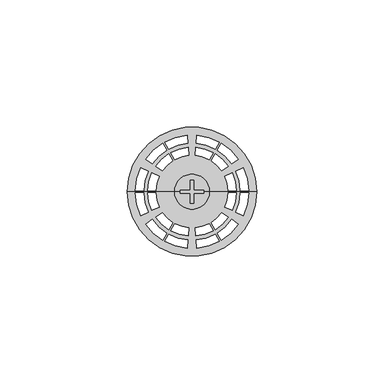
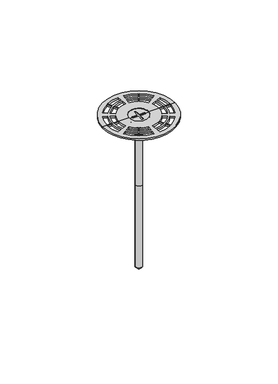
"""IFC4 building model written with IfcOpenShell, lengths in millimetres: proxy geometry, Durabond Generic Model Screw w Standard Wall Plate : Durabond Generic Model Screw w Standard Wall Plate."""

from ifc_helpers import new_model, si_unit, point, frame, origin, place, context, project, spatial, polyline, circle_curve, ellipse_curve, trimmed, source, transform, mapped, element, save
from ifc_brep_helpers import plane_surface, cylinder_surface, revolved_surface, advanced_brep


def generic_models_3031e4fa(model_context):
    return source(origin(), model_context, "Body", "AdvancedBrep", [
        advanced_brep(
        [(6.8713781, 0.0, 0.79375), (4.7625, 0.0, 0.79375), (4.7625, -0.79375, 0.79375), (0.79375, -0.79375, 0.79375), (0.79375, -4.7625, 0.79375), (-0.79375, -4.7625, 0.79375), (-0.79375, -0.79375, 0.79375), (-4.7625, -0.79375, 0.79375), (-4.7625, 0.0, 0.79375), (-6.8713781, 0.0, 0.79375), (-4.7625, 0.79375, 0.79375), (-0.79375, 0.79375, 0.79375), (-0.79375, 4.7625, 0.79375), (0.79375, 4.7625, 0.79375), (0.79375, 0.79375, 0.79375), (4.7625, 0.79375, 0.79375), (-6.8713781, 0.0, -1.0661219), (6.8713781, 0.0, -1.0661219), (-2.38125, 0.0, -5.55625), (2.38125, 0.0, -5.55625), (-2.38125, 0.0, -50.00625), (2.38125, 0.0, -50.00625), (-0.79375, 4.7625, 0.0), (-0.79375, 0.79375, 0.0), (-4.7625, 0.79375, 0.0), (-4.7625, -0.79375, 0.0), (-0.79375, -0.79375, 0.0), (-0.79375, -4.7625, 0.0), (0.79375, -4.7625, 0.0), (0.79375, -0.79375, 0.0), (4.7625, -0.79375, 0.0), (4.7625, 0.79375, 0.0), (0.79375, 0.79375, 0.0), (0.79375, 4.7625, 0.0), (0.0, 0.0, -50.00625)],
        [
            (0, 1),
            (1, 2),
            (2, 3),
            (3, 4),
            (4, 5),
            (5, 6),
            (6, 7),
            (7, 8),
            (8, 9),
            (9, 0, circle_curve(frame((0.0, 0.0, 0.79375), z_axis=(0.0, 0.0, 1.0), x_axis=(-1.0, 0.0, 0.0)), 6.8713781)),
            (8, 10),
            (10, 11),
            (11, 12),
            (12, 13),
            (13, 14),
            (14, 15),
            (15, 1),
            (0, 9, circle_curve(frame((0.0, 0.0, 0.79375), z_axis=(0.0, 0.0, 1.0), x_axis=(-1.0, 0.0, 0.0)), 6.8713781)),
            (9, 16),
            (16, 17, circle_curve(frame((0.0, 0.0, -1.0661219), z_axis=(0.0, 0.0, 1.0), x_axis=(-1.0, 0.0, 0.0)), 6.8713781)),
            (17, 0),
            (17, 16, circle_curve(frame((0.0, 0.0, -1.0661219), z_axis=(0.0, 0.0, 1.0), x_axis=(-1.0, 0.0, 0.0)), 6.8713781)),
            (16, 18),
            (18, 19, circle_curve(frame((0.0, 0.0, -5.55625), z_axis=(0.0, 0.0, 1.0), x_axis=(-1.0, 0.0, 0.0)), 2.38125)),
            (19, 17),
            (19, 18, circle_curve(frame((0.0, 0.0, -5.55625), z_axis=(0.0, 0.0, 1.0), x_axis=(-1.0, 0.0, 0.0)), 2.38125)),
            (18, 20),
            (20, 21, circle_curve(frame((0.0, 0.0, -50.00625), z_axis=(0.0, 0.0, 1.0), x_axis=(-1.0, 0.0, 0.0)), 2.38125)),
            (21, 19),
            (21, 20, circle_curve(frame((0.0, 0.0, -50.00625), z_axis=(0.0, 0.0, 1.0), x_axis=(-1.0, 0.0, 0.0)), 2.38125)),
            (22, 23),
            (23, 24),
            (24, 25),
            (25, 26),
            (26, 27),
            (27, 28),
            (28, 29),
            (29, 30),
            (30, 31),
            (31, 32),
            (32, 33),
            (33, 22),
            (33, 13),
            (12, 22),
            (32, 14),
            (31, 15),
            (30, 2),
            (29, 3),
            (28, 4),
            (27, 5),
            (26, 6),
            (25, 7),
            (24, 10),
            (23, 11),
            (20, 34),
            (34, 21),
        ],
        [
            plane_surface(frame((0.0, 0.0, 0.79375), z_axis=(0.0, 0.0, 1.0), x_axis=(-1.0, 0.0, 0.0))),
            cylinder_surface(frame((0.0, 0.0, 64.29375), z_axis=(0.0, 0.0, -1.0), x_axis=(-1.0, 0.0, 0.0)), 6.8713781),
            revolved_surface(polyline([(-6.8713781, 0.0, -1.0661219), (-2.38125, 0.0, -5.55625)]), (0.0, 0.0, 64.29375), (0.0, 0.0, -1.0)),
            cylinder_surface(frame((0.0, 0.0, 64.29375), z_axis=(0.0, 0.0, -1.0), x_axis=(-1.0, 0.0, 0.0)), 2.38125),
            plane_surface(frame((6.8713781, 4.7625, 0.0), z_axis=(0.0, 0.0, 1.0), x_axis=(-1.0, 0.0, 0.0))),
            plane_surface(frame((-0.79375, 4.7625, 0.79375), z_axis=(0.0, -1.0, 0.0), x_axis=(0.0, 0.0, -1.0))),
            plane_surface(frame((0.79375, 4.7625, 0.79375), z_axis=(-1.0, 0.0, 0.0), x_axis=(0.0, 0.0, -1.0))),
            plane_surface(frame((0.79375, 0.79375, 0.79375), z_axis=(0.0, -1.0, 0.0), x_axis=(0.0, 0.0, -1.0))),
            plane_surface(frame((4.7625, 0.79375, 0.79375), z_axis=(-1.0, 0.0, 0.0), x_axis=(0.0, 0.0, -1.0))),
            plane_surface(frame((4.7625, -0.79375, 0.79375), z_axis=(0.0, 1.0, 0.0), x_axis=(0.0, 0.0, -1.0))),
            plane_surface(frame((0.79375, -0.79375, 0.79375), z_axis=(-1.0, 0.0, 0.0), x_axis=(0.0, 0.0, -1.0))),
            plane_surface(frame((0.79375, -4.7625, 0.79375), z_axis=(0.0, 1.0, 0.0), x_axis=(0.0, 0.0, -1.0))),
            plane_surface(frame((-0.79375, -4.7625, 0.79375), z_axis=(1.0, 0.0, 0.0), x_axis=(0.0, 0.0, -1.0))),
            plane_surface(frame((-0.79375, -0.79375, 0.79375), z_axis=(0.0, 1.0, 0.0), x_axis=(0.0, 0.0, -1.0))),
            plane_surface(frame((-4.7625, -0.79375, 0.79375), z_axis=(1.0, 0.0, 0.0), x_axis=(0.0, 0.0, -1.0))),
            plane_surface(frame((-4.7625, 0.79375, 0.79375), z_axis=(0.0, -1.0, 0.0), x_axis=(0.0, 0.0, -1.0))),
            plane_surface(frame((-0.79375, 0.79375, 0.79375), z_axis=(1.0, 0.0, 0.0), x_axis=(0.0, 0.0, -1.0))),
            plane_surface(frame((0.0, 0.0, -50.00625), z_axis=(0.0, 0.0, -1.0), x_axis=(-1.0, 0.0, 0.0))),
        ],
        [
            (0, [[1, 2, 3, 4, 5, 6, 7, 8, 9, 10]]),
            (0, [[-9, 11, 12, 13, 14, 15, 16, 17, -1, 18]]),
            (1, [[19, 20, 21, -10]]),
            (1, [[-21, 22, -19, -18]]),
            (2, [[23, 24, 25, -20]]),
            (2, [[-25, 26, -23, -22]]),
            (3, [[27, 28, 29, -24]]),
            (3, [[-29, 30, -27, -26]]),
            (4, [[31, 32, 33, 34, 35, 36, 37, 38, 39, 40, 41, 42]]),
            (5, [[43, -14, 44, -42]]),
            (6, [[45, -15, -43, -41]]),
            (7, [[46, -16, -45, -40]]),
            (8, [[47, -2, -17, -46, -39]]),
            (9, [[48, -3, -47, -38]]),
            (10, [[49, -4, -48, -37]]),
            (11, [[50, -5, -49, -36]]),
            (12, [[51, -6, -50, -35]]),
            (13, [[52, -7, -51, -34]]),
            (14, [[53, -11, -8, -52, -33]]),
            (15, [[54, -12, -53, -32]]),
            (16, [[-44, -13, -54, -31]]),
            (17, [[55, 56, -28]]),
            (17, [[-56, -55, -30]]),
        ],
    ),
        advanced_brep(
        [(0.0, 0.0, -113.50625), (2.38125, 0.0, -111.125), (-2.38125, 0.0, -111.125), (2.38125, 0.0, -50.00625), (-2.38125, 0.0, -50.00625), (0.0, 0.0, -50.00625)],
        [
            (0, 1),
            (1, 2, circle_curve(frame((0.0, 0.0, -111.125), z_axis=(0.0, 0.0, -1.0), x_axis=(-1.0, 0.0, 0.0)), 2.38125)),
            (2, 0),
            (2, 1, circle_curve(frame((0.0, 0.0, -111.125), z_axis=(0.0, 0.0, -1.0), x_axis=(-1.0, 0.0, 0.0)), 2.38125)),
            (1, 3),
            (3, 4, circle_curve(frame((0.0, 0.0, -50.00625), z_axis=(0.0, 0.0, -1.0), x_axis=(-1.0, 0.0, 0.0)), 2.38125)),
            (4, 2),
            (4, 3, circle_curve(frame((0.0, 0.0, -50.00625), z_axis=(0.0, 0.0, -1.0), x_axis=(-1.0, 0.0, 0.0)), 2.38125)),
            (3, 5),
            (5, 4),
        ],
        [
            revolved_surface(polyline([(-2.38125, 0.0, -111.125), (0.0, 0.0, -113.50625)]), (0.0, 0.0, 64.29375), (0.0, 0.0, -1.0)),
            cylinder_surface(frame((0.0, 0.0, 64.29375), z_axis=(0.0, 0.0, -1.0), x_axis=(-1.0, 0.0, 0.0)), 2.38125),
            plane_surface(frame((0.0, 0.0, -50.00625), z_axis=(0.0, 0.0, 1.0), x_axis=(-1.0, 0.0, 0.0))),
        ],
        [
            (0, [[1, 2, 3]]),
            (0, [[-3, 4, -1]]),
            (1, [[5, 6, 7, -2]]),
            (1, [[-7, 8, -5, -4]]),
            (2, [[9, 10, -6]]),
            (2, [[-10, -9, -8]]),
        ],
    ),
        advanced_brep(
        [(6.8713781, 0.0, 1.190625), (6.8713781, 0.0, -1.0661219), (-6.8713781, 0.0, -1.0661219), (-6.8713781, 0.0, 1.190625), (-25.4, 0.0, 1.190625), (25.4, 0.0, 1.190625), (-20.1426906, -9.3926909, 1.190625), (-22.2214562, -0.396875, 1.190625), (-19.0458654, -0.396875, 1.190625), (-17.2651633, -8.0508779, 1.190625), (-15.8263997, -7.3799714, 1.190625), (-17.4579895, -0.396875, 1.190625), (-14.2819868, -0.396875, 1.190625), (-12.9488725, -6.0381584, 1.190625), (20.1426906, -9.3926909, 1.190625), (17.2651633, -8.0508779, 1.190625), (19.0458654, -0.396875, 1.190625), (22.2214562, -0.396875, 1.190625), (15.8263997, -7.3799714, 1.190625), (12.9488725, -6.0381584, 1.190625), (14.2819868, -0.396875, 1.190625), (17.4579895, -0.396875, 1.190625), (-1.9370364, -22.1404272, 1.190625), (-10.7670243, -19.4427831, 1.190625), (-9.1792289, -16.6926408, 1.190625), (-1.6603169, -18.977509, 1.190625), (-1.5219572, -17.3960499, 1.190625), (-8.3852909, -15.3174999, 1.190625), (-6.7972896, -12.5670009, 1.190625), (-1.2452377, -14.2331317, 1.190625), (-18.2056542, -12.7477363, 1.190625), (-15.6048464, -10.9266311, 1.190625), (-9.8666366, -16.2957658, 1.190625), (-11.4544319, -19.0459081, 1.190625), (-14.3044426, -10.0160785, 1.190625), (-11.7036348, -8.1949733, 1.190625), (-7.4846972, -12.1701259, 1.190625), (-9.0726986, -14.9206249, 1.190625), (1.9370364, -22.1404272, 1.190625), (1.6603169, -18.977509, 1.190625), (9.1792289, -16.6926408, 1.190625), (10.7670243, -19.4427831, 1.190625), (1.5219572, -17.3960499, 1.190625), (1.2452377, -14.2331317, 1.190625), (6.7972896, -12.5670009, 1.190625), (8.3852909, -15.3174999, 1.190625), (18.2056542, -12.7477363, 1.190625), (11.4544319, -19.0459081, 1.190625), (9.8666366, -16.2957658, 1.190625), (15.6048464, -10.9266311, 1.190625), (14.3044426, -10.0160785, 1.190625), (9.0726986, -14.9206249, 1.190625), (7.4846972, -12.1701259, 1.190625), (11.7036348, -8.1949733, 1.190625), (-20.1426906, 9.3926909, 1.190625), (-17.2651633, 8.0508779, 1.190625), (-19.0458654, 0.396875, 1.190625), (-22.2214562, 0.396875, 1.190625), (-15.8263997, 7.3799714, 1.190625), (-12.9488725, 6.0381584, 1.190625), (-14.2819868, 0.396875, 1.190625), (-17.4579895, 0.396875, 1.190625), (20.1426906, 9.3926909, 1.190625), (22.2214562, 0.396875, 1.190625), (19.0458654, 0.396875, 1.190625), (17.2651633, 8.0508779, 1.190625), (15.8263997, 7.3799714, 1.190625), (17.4579895, 0.396875, 1.190625), (14.2819868, 0.396875, 1.190625), (12.9488725, 6.0381584, 1.190625), (18.2056542, 12.7477363, 1.190625), (15.6048464, 10.9266311, 1.190625), (9.8666366, 16.2957658, 1.190625), (11.4544319, 19.0459081, 1.190625), (14.3044426, 10.0160785, 1.190625), (11.7036348, 8.1949733, 1.190625), (7.4846972, 12.1701259, 1.190625), (9.0726986, 14.9206249, 1.190625), (1.9370364, 22.1404272, 1.190625), (10.7670243, 19.4427831, 1.190625), (9.1792289, 16.6926408, 1.190625), (1.6603169, 18.977509, 1.190625), (1.5219572, 17.3960499, 1.190625), (8.3852909, 15.3174999, 1.190625), (6.7972896, 12.5670009, 1.190625), (1.2452377, 14.2331317, 1.190625), (-18.2056542, 12.7477363, 1.190625), (-11.4544319, 19.0459081, 1.190625), (-9.8666366, 16.2957658, 1.190625), (-15.6048464, 10.9266311, 1.190625), (-14.3044426, 10.0160785, 1.190625), (-9.0726986, 14.9206249, 1.190625), (-7.4846972, 12.1701259, 1.190625), (-11.7036348, 8.1949733, 1.190625), (-1.9370364, 22.1404272, 1.190625), (-1.6603169, 18.977509, 1.190625), (-9.1792289, 16.6926408, 1.190625), (-10.7670243, 19.4427831, 1.190625), (-1.5219572, 17.3960499, 1.190625), (-1.2452377, 14.2331317, 1.190625), (-6.7972896, 12.5670009, 1.190625), (-8.3852909, 15.3174999, 1.190625), (-25.4, 0.0, 0.0), (25.4, 0.0, 0.0), (-13.9306805, 0.0, 0.0), (13.9306805, 0.0, 0.0), (-17.2651633, -8.0508779, 0.0), (-19.0458654, -0.396875, 0.0), (-22.2214562, -0.396875, 0.0), (-20.1426906, -9.3926909, 0.0), (-12.9488725, -6.0381584, 0.0), (-14.2819868, -0.396875, 0.0), (-17.4579895, -0.396875, 0.0), (-15.8263997, -7.3799714, 0.0), (22.2214562, -0.396875, 0.0), (19.0458654, -0.396875, 0.0), (17.2651633, -8.0508779, 0.0), (20.1426906, -9.3926909, 0.0), (17.4579895, -0.396875, 0.0), (14.2819868, -0.396875, 0.0), (12.9488725, -6.0381584, 0.0), (15.8263997, -7.3799714, 0.0), (-1.6603169, -18.977509, 0.0), (-9.1792289, -16.6926408, 0.0), (-10.7670243, -19.4427831, 0.0), (-1.9370364, -22.1404272, 0.0), (-1.2452377, -14.2331317, 0.0), (-6.7972896, -12.5670009, 0.0), (-8.3852909, -15.3174999, 0.0), (-1.5219572, -17.3960499, 0.0), (-11.4544319, -19.0459081, 0.0), (-9.8666366, -16.2957658, 0.0), (-15.6048464, -10.9266311, 0.0), (-18.2056542, -12.7477363, 0.0), (-9.0726986, -14.9206249, 0.0), (-7.4846972, -12.1701259, 0.0), (-11.7036348, -8.1949733, 0.0), (-14.3044426, -10.0160785, 0.0), (10.7670243, -19.4427831, 0.0), (9.1792289, -16.6926408, 0.0), (1.6603169, -18.977509, 0.0), (1.9370364, -22.1404272, 0.0), (8.3852909, -15.3174999, 0.0), (6.7972896, -12.5670009, 0.0), (1.2452377, -14.2331317, 0.0), (1.5219572, -17.3960499, 0.0), (15.6048464, -10.9266311, 0.0), (9.8666366, -16.2957658, 0.0), (11.4544319, -19.0459081, 0.0), (18.2056542, -12.7477363, 0.0), (11.7036348, -8.1949733, 0.0), (7.4846972, -12.1701259, 0.0), (9.0726986, -14.9206249, 0.0), (14.3044426, -10.0160785, 0.0), (-22.2214562, 0.396875, 0.0), (-19.0458654, 0.396875, 0.0), (-17.2651633, 8.0508779, 0.0), (-20.1426906, 9.3926909, 0.0), (-17.4579895, 0.396875, 0.0), (-14.2819868, 0.396875, 0.0), (-12.9488725, 6.0381584, 0.0), (-15.8263997, 7.3799714, 0.0), (17.2651633, 8.0508779, 0.0), (19.0458654, 0.396875, 0.0), (22.2214562, 0.396875, 0.0), (20.1426906, 9.3926909, 0.0), (12.9488725, 6.0381584, 0.0), (14.2819868, 0.396875, 0.0), (17.4579895, 0.396875, 0.0), (15.8263997, 7.3799714, 0.0), (11.4544319, 19.0459081, 0.0), (9.8666366, 16.2957658, 0.0), (15.6048464, 10.9266311, 0.0), (18.2056542, 12.7477363, 0.0), (9.0726986, 14.9206249, 0.0), (7.4846972, 12.1701259, 0.0), (11.7036348, 8.1949733, 0.0), (14.3044426, 10.0160785, 0.0), (1.6603169, 18.977509, 0.0), (9.1792289, 16.6926408, 0.0), (10.7670243, 19.4427831, 0.0), (1.9370364, 22.1404272, 0.0), (1.2452377, 14.2331317, 0.0), (6.7972896, 12.5670009, 0.0), (8.3852909, 15.3174999, 0.0), (1.5219572, 17.3960499, 0.0), (-15.6048464, 10.9266311, 0.0), (-9.8666366, 16.2957658, 0.0), (-11.4544319, 19.0459081, 0.0), (-18.2056542, 12.7477363, 0.0), (-11.7036348, 8.1949733, 0.0), (-7.4846972, 12.1701259, 0.0), (-9.0726986, 14.9206249, 0.0), (-14.3044426, 10.0160785, 0.0), (-10.7670243, 19.4427831, 0.0), (-9.1792289, 16.6926408, 0.0), (-1.6603169, 18.977509, 0.0), (-1.9370364, 22.1404272, 0.0), (-8.3852909, 15.3174999, 0.0), (-6.7972896, 12.5670009, 0.0), (-1.2452377, 14.2331317, 0.0), (-1.5219572, 17.3960499, 0.0), (8.4746148, 0.0, -6.2461508), (9.3350004, 0.0, -3.4087638), (-9.3350004, 0.0, -3.4087638), (-8.4746148, 0.0, -6.2461508), (-2.38125, 0.0, -12.3395156), (2.38125, 0.0, -12.3395156), (-2.38125, 0.0, -5.55625), (2.38125, 0.0, -5.55625)],
        [
            (0, 1),
            (1, 2, circle_curve(frame((0.0, 0.0, -1.0661219), z_axis=(0.0, 0.0, -1.0), x_axis=(-1.0, 0.0, 0.0)), 6.8713781)),
            (2, 3),
            (3, 0, circle_curve(frame((0.0, 0.0, 1.190625), z_axis=(0.0, 0.0, 1.0), x_axis=(-1.0, 0.0, 0.0)), 6.8713781)),
            (2, 1, circle_curve(frame((0.0, 0.0, -1.0661219), z_axis=(0.0, 0.0, -1.0), x_axis=(-1.0, 0.0, 0.0)), 6.8713781)),
            (0, 3, circle_curve(frame((0.0, 0.0, 1.190625), z_axis=(0.0, 0.0, 1.0), x_axis=(-1.0, 0.0, 0.0)), 6.8713781)),
            (3, 4),
            (4, 5, circle_curve(frame((0.0, 0.0, 1.190625), z_axis=(0.0, 0.0, 1.0), x_axis=(-1.0, 0.0, 0.0)), 25.4)),
            (5, 0),
            (6, 7, circle_curve(frame((0.0, 0.0, 1.190625), z_axis=(0.0, 0.0, -1.0), x_axis=(0.0, 1.0, 0.0)), 22.225)),
            (7, 8),
            (8, 9, circle_curve(frame((0.0, 0.0, 1.190625), z_axis=(0.0, 0.0, 1.0), x_axis=(0.0, 1.0, 0.0)), 19.05)),
            (9, 6),
            (10, 11, circle_curve(frame((0.0, 0.0, 1.190625), z_axis=(0.0, 0.0, -1.0), x_axis=(0.0, 1.0, 0.0)), 17.4625)),
            (11, 12),
            (12, 13, circle_curve(frame((0.0, 0.0, 1.190625), z_axis=(0.0, 0.0, 1.0), x_axis=(0.0, 1.0, 0.0)), 14.2875)),
            (13, 10),
            (14, 15),
            (15, 16, circle_curve(frame((0.0, 0.0, 1.190625), z_axis=(0.0, 0.0, 1.0), x_axis=(0.0, 1.0, 0.0)), 19.05)),
            (16, 17),
            (17, 14, circle_curve(frame((0.0, 0.0, 1.190625), z_axis=(0.0, 0.0, -1.0), x_axis=(0.0, 1.0, 0.0)), 22.225)),
            (18, 19),
            (19, 20, circle_curve(frame((0.0, 0.0, 1.190625), z_axis=(0.0, 0.0, 1.0), x_axis=(0.0, 1.0, 0.0)), 14.2875)),
            (20, 21),
            (21, 18, circle_curve(frame((0.0, 0.0, 1.190625), z_axis=(0.0, 0.0, -1.0), x_axis=(0.0, 1.0, 0.0)), 17.4625)),
            (22, 23, circle_curve(frame((0.0, 0.0, 1.190625), z_axis=(0.0, 0.0, -1.0), x_axis=(-0.8660254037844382, 0.5000000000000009, 0.0)), 22.225)),
            (23, 24),
            (24, 25, circle_curve(frame((0.0, 0.0, 1.190625), z_axis=(0.0, 0.0, 1.0), x_axis=(-0.8660254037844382, 0.5000000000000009, 0.0)), 19.05)),
            (25, 22),
            (26, 27, circle_curve(frame((0.0, 0.0, 1.190625), z_axis=(0.0, 0.0, -1.0), x_axis=(-0.8660254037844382, 0.5000000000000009, 0.0)), 17.4625)),
            (27, 28),
            (28, 29, circle_curve(frame((0.0, 0.0, 1.190625), z_axis=(0.0, 0.0, 1.0), x_axis=(-0.8660254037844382, 0.5000000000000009, 0.0)), 14.2875)),
            (29, 26),
            (30, 31),
            (31, 32, circle_curve(frame((0.0, 0.0, 1.190625), z_axis=(0.0, 0.0, 1.0), x_axis=(0.8660254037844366, -0.5000000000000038, 0.0)), 19.05)),
            (32, 33),
            (33, 30, circle_curve(frame((0.0, 0.0, 1.190625), z_axis=(0.0, 0.0, -1.0), x_axis=(0.8660254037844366, -0.5000000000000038, 0.0)), 22.225)),
            (34, 35),
            (35, 36, circle_curve(frame((0.0, 0.0, 1.190625), z_axis=(0.0, 0.0, 1.0), x_axis=(0.8660254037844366, -0.5000000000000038, 0.0)), 14.2875)),
            (36, 37),
            (37, 34, circle_curve(frame((0.0, 0.0, 1.190625), z_axis=(0.0, 0.0, -1.0), x_axis=(0.8660254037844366, -0.5000000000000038, 0.0)), 17.4625)),
            (38, 39),
            (39, 40, circle_curve(frame((0.0, 0.0, 1.190625), z_axis=(0.0, 0.0, 1.0), x_axis=(0.8660254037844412, 0.4999999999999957, 0.0)), 19.05)),
            (40, 41),
            (41, 38, circle_curve(frame((0.0, 0.0, 1.190625), z_axis=(0.0, 0.0, -1.0), x_axis=(0.8660254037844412, 0.4999999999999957, 0.0)), 22.225)),
            (42, 43),
            (43, 44, circle_curve(frame((0.0, 0.0, 1.190625), z_axis=(0.0, 0.0, 1.0), x_axis=(0.8660254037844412, 0.4999999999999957, 0.0)), 14.2875)),
            (44, 45),
            (45, 42, circle_curve(frame((0.0, 0.0, 1.190625), z_axis=(0.0, 0.0, -1.0), x_axis=(0.8660254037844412, 0.4999999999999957, 0.0)), 17.4625)),
            (46, 47, circle_curve(frame((0.0, 0.0, 1.190625), z_axis=(0.0, 0.0, -1.0), x_axis=(-0.8660254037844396, -0.49999999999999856, 0.0)), 22.225)),
            (47, 48),
            (48, 49, circle_curve(frame((0.0, 0.0, 1.190625), z_axis=(0.0, 0.0, 1.0), x_axis=(-0.8660254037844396, -0.49999999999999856, 0.0)), 19.05)),
            (49, 46),
            (50, 51, circle_curve(frame((0.0, 0.0, 1.190625), z_axis=(0.0, 0.0, -1.0), x_axis=(-0.8660254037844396, -0.49999999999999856, 0.0)), 17.4625)),
            (51, 52),
            (52, 53, circle_curve(frame((0.0, 0.0, 1.190625), z_axis=(0.0, 0.0, 1.0), x_axis=(-0.8660254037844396, -0.49999999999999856, 0.0)), 14.2875)),
            (53, 50),
            (5, 4, circle_curve(frame((0.0, 0.0, 1.190625), z_axis=(0.0, 0.0, 1.0), x_axis=(-1.0, 0.0, 0.0)), 25.4)),
            (54, 55),
            (55, 56, circle_curve(frame((0.0, 0.0, 1.190625), z_axis=(0.0, 0.0, 1.0), x_axis=(0.0, -1.0, 0.0)), 19.05)),
            (56, 57),
            (57, 54, circle_curve(frame((0.0, 0.0, 1.190625), z_axis=(0.0, 0.0, -1.0), x_axis=(0.0, -1.0, 0.0)), 22.225)),
            (58, 59),
            (59, 60, circle_curve(frame((0.0, 0.0, 1.190625), z_axis=(0.0, 0.0, 1.0), x_axis=(0.0, -1.0, 0.0)), 14.2875)),
            (60, 61),
            (61, 58, circle_curve(frame((0.0, 0.0, 1.190625), z_axis=(0.0, 0.0, -1.0), x_axis=(0.0, -1.0, 0.0)), 17.4625)),
            (62, 63, circle_curve(frame((0.0, 0.0, 1.190625), z_axis=(0.0, 0.0, -1.0), x_axis=(0.0, -1.0, 0.0)), 22.225)),
            (63, 64),
            (64, 65, circle_curve(frame((0.0, 0.0, 1.190625), z_axis=(0.0, 0.0, 1.0), x_axis=(0.0, -1.0, 0.0)), 19.05)),
            (65, 62),
            (66, 67, circle_curve(frame((0.0, 0.0, 1.190625), z_axis=(0.0, 0.0, -1.0), x_axis=(0.0, -1.0, 0.0)), 17.4625)),
            (67, 68),
            (68, 69, circle_curve(frame((0.0, 0.0, 1.190625), z_axis=(0.0, 0.0, 1.0), x_axis=(0.0, -1.0, 0.0)), 14.2875)),
            (69, 66),
            (70, 71),
            (71, 72, circle_curve(frame((0.0, 0.0, 1.190625), z_axis=(0.0, 0.0, 1.0), x_axis=(-0.8660254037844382, 0.5000000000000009, 0.0)), 19.05)),
            (72, 73),
            (73, 70, circle_curve(frame((0.0, 0.0, 1.190625), z_axis=(0.0, 0.0, -1.0), x_axis=(-0.8660254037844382, 0.5000000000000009, 0.0)), 22.225)),
            (74, 75),
            (75, 76, circle_curve(frame((0.0, 0.0, 1.190625), z_axis=(0.0, 0.0, 1.0), x_axis=(-0.8660254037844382, 0.5000000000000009, 0.0)), 14.2875)),
            (76, 77),
            (77, 74, circle_curve(frame((0.0, 0.0, 1.190625), z_axis=(0.0, 0.0, -1.0), x_axis=(-0.8660254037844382, 0.5000000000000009, 0.0)), 17.4625)),
            (78, 79, circle_curve(frame((0.0, 0.0, 1.190625), z_axis=(0.0, 0.0, -1.0), x_axis=(0.8660254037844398, -0.4999999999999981, 0.0)), 22.225)),
            (79, 80),
            (80, 81, circle_curve(frame((0.0, 0.0, 1.190625), z_axis=(0.0, 0.0, 1.0), x_axis=(0.8660254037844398, -0.4999999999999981, 0.0)), 19.05)),
            (81, 78),
            (82, 83, circle_curve(frame((0.0, 0.0, 1.190625), z_axis=(0.0, 0.0, -1.0), x_axis=(0.8660254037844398, -0.4999999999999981, 0.0)), 17.4625)),
            (83, 84),
            (84, 85, circle_curve(frame((0.0, 0.0, 1.190625), z_axis=(0.0, 0.0, 1.0), x_axis=(0.8660254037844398, -0.4999999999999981, 0.0)), 14.2875)),
            (85, 82),
            (86, 87, circle_curve(frame((0.0, 0.0, 1.190625), z_axis=(0.0, 0.0, -1.0), x_axis=(0.8660254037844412, 0.4999999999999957, 0.0)), 22.225)),
            (87, 88),
            (88, 89, circle_curve(frame((0.0, 0.0, 1.190625), z_axis=(0.0, 0.0, 1.0), x_axis=(0.8660254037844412, 0.4999999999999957, 0.0)), 19.05)),
            (89, 86),
            (90, 91, circle_curve(frame((0.0, 0.0, 1.190625), z_axis=(0.0, 0.0, -1.0), x_axis=(0.8660254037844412, 0.4999999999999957, 0.0)), 17.4625)),
            (91, 92),
            (92, 93, circle_curve(frame((0.0, 0.0, 1.190625), z_axis=(0.0, 0.0, 1.0), x_axis=(0.8660254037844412, 0.4999999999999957, 0.0)), 14.2875)),
            (93, 90),
            (94, 95),
            (95, 96, circle_curve(frame((0.0, 0.0, 1.190625), z_axis=(0.0, 0.0, 1.0), x_axis=(-0.8660254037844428, -0.49999999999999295, 0.0)), 19.05)),
            (96, 97),
            (97, 94, circle_curve(frame((0.0, 0.0, 1.190625), z_axis=(0.0, 0.0, -1.0), x_axis=(-0.8660254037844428, -0.49999999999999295, 0.0)), 22.225)),
            (98, 99),
            (99, 100, circle_curve(frame((0.0, 0.0, 1.190625), z_axis=(0.0, 0.0, 1.0), x_axis=(-0.8660254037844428, -0.49999999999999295, 0.0)), 14.2875)),
            (100, 101),
            (101, 98, circle_curve(frame((0.0, 0.0, 1.190625), z_axis=(0.0, 0.0, -1.0), x_axis=(-0.8660254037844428, -0.49999999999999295, 0.0)), 17.4625)),
            (4, 102),
            (102, 103, circle_curve(frame((0.0, 0.0, 0.0), z_axis=(0.0, 0.0, 1.0), x_axis=(-1.0, 0.0, 0.0)), 25.4)),
            (103, 5),
            (103, 102, circle_curve(frame((0.0, 0.0, 0.0), z_axis=(0.0, 0.0, 1.0), x_axis=(-1.0, 0.0, 0.0)), 25.4)),
            (102, 104),
            (104, 105, circle_curve(frame((0.0, 0.0, 0.0), z_axis=(0.0, 0.0, 1.0), x_axis=(-1.0, 0.0, 0.0)), 13.9306805)),
            (105, 103),
            (106, 107, circle_curve(frame((0.0, 0.0, 0.0), z_axis=(0.0, 0.0, -1.0), x_axis=(0.0, 1.0, 0.0)), 19.05)),
            (107, 108),
            (108, 109, circle_curve(frame((0.0, 0.0, 0.0), z_axis=(0.0, 0.0, 1.0), x_axis=(0.0, 1.0, 0.0)), 22.225)),
            (109, 106),
            (110, 111, circle_curve(frame((0.0, 0.0, 0.0), z_axis=(0.0, 0.0, -1.0), x_axis=(0.0, 1.0, 0.0)), 14.2875)),
            (111, 112),
            (112, 113, circle_curve(frame((0.0, 0.0, 0.0), z_axis=(0.0, 0.0, 1.0), x_axis=(0.0, 1.0, 0.0)), 17.4625)),
            (113, 110),
            (114, 115),
            (115, 116, circle_curve(frame((0.0, 0.0, 0.0), z_axis=(0.0, 0.0, -1.0), x_axis=(0.0, 1.0, 0.0)), 19.05)),
            (116, 117),
            (117, 114, circle_curve(frame((0.0, 0.0, 0.0), z_axis=(0.0, 0.0, 1.0), x_axis=(0.0, 1.0, 0.0)), 22.225)),
            (118, 119),
            (119, 120, circle_curve(frame((0.0, 0.0, 0.0), z_axis=(0.0, 0.0, -1.0), x_axis=(0.0, 1.0, 0.0)), 14.2875)),
            (120, 121),
            (121, 118, circle_curve(frame((0.0, 0.0, 0.0), z_axis=(0.0, 0.0, 1.0), x_axis=(0.0, 1.0, 0.0)), 17.4625)),
            (122, 123, circle_curve(frame((0.0, 0.0, 0.0), z_axis=(0.0, 0.0, -1.0), x_axis=(-0.8660254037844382, 0.5000000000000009, 0.0)), 19.05)),
            (123, 124),
            (124, 125, circle_curve(frame((0.0, 0.0, 0.0), z_axis=(0.0, 0.0, 1.0), x_axis=(-0.8660254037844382, 0.5000000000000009, 0.0)), 22.225)),
            (125, 122),
            (126, 127, circle_curve(frame((0.0, 0.0, 0.0), z_axis=(0.0, 0.0, -1.0), x_axis=(-0.8660254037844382, 0.5000000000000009, 0.0)), 14.2875)),
            (127, 128),
            (128, 129, circle_curve(frame((0.0, 0.0, 0.0), z_axis=(0.0, 0.0, 1.0), x_axis=(-0.8660254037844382, 0.5000000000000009, 0.0)), 17.4625)),
            (129, 126),
            (130, 131),
            (131, 132, circle_curve(frame((0.0, 0.0, 0.0), z_axis=(0.0, 0.0, -1.0), x_axis=(0.8660254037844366, -0.5000000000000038, 0.0)), 19.05)),
            (132, 133),
            (133, 130, circle_curve(frame((0.0, 0.0, 0.0), z_axis=(0.0, 0.0, 1.0), x_axis=(0.8660254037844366, -0.5000000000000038, 0.0)), 22.225)),
            (134, 135),
            (135, 136, circle_curve(frame((0.0, 0.0, 0.0), z_axis=(0.0, 0.0, -1.0), x_axis=(0.8660254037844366, -0.5000000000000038, 0.0)), 14.2875)),
            (136, 137),
            (137, 134, circle_curve(frame((0.0, 0.0, 0.0), z_axis=(0.0, 0.0, 1.0), x_axis=(0.8660254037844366, -0.5000000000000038, 0.0)), 17.4625)),
            (138, 139),
            (139, 140, circle_curve(frame((0.0, 0.0, 0.0), z_axis=(0.0, 0.0, -1.0), x_axis=(0.8660254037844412, 0.4999999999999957, 0.0)), 19.05)),
            (140, 141),
            (141, 138, circle_curve(frame((0.0, 0.0, 0.0), z_axis=(0.0, 0.0, 1.0), x_axis=(0.8660254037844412, 0.4999999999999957, 0.0)), 22.225)),
            (142, 143),
            (143, 144, circle_curve(frame((0.0, 0.0, 0.0), z_axis=(0.0, 0.0, -1.0), x_axis=(0.8660254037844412, 0.4999999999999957, 0.0)), 14.2875)),
            (144, 145),
            (145, 142, circle_curve(frame((0.0, 0.0, 0.0), z_axis=(0.0, 0.0, 1.0), x_axis=(0.8660254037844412, 0.4999999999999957, 0.0)), 17.4625)),
            (146, 147, circle_curve(frame((0.0, 0.0, 0.0), z_axis=(0.0, 0.0, -1.0), x_axis=(-0.8660254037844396, -0.49999999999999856, 0.0)), 19.05)),
            (147, 148),
            (148, 149, circle_curve(frame((0.0, 0.0, 0.0), z_axis=(0.0, 0.0, 1.0), x_axis=(-0.8660254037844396, -0.49999999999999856, 0.0)), 22.225)),
            (149, 146),
            (150, 151, circle_curve(frame((0.0, 0.0, 0.0), z_axis=(0.0, 0.0, -1.0), x_axis=(-0.8660254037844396, -0.49999999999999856, 0.0)), 14.2875)),
            (151, 152),
            (152, 153, circle_curve(frame((0.0, 0.0, 0.0), z_axis=(0.0, 0.0, 1.0), x_axis=(-0.8660254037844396, -0.49999999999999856, 0.0)), 17.4625)),
            (153, 150),
            (105, 104, circle_curve(frame((0.0, 0.0, 0.0), z_axis=(0.0, 0.0, 1.0), x_axis=(-1.0, 0.0, 0.0)), 13.9306805)),
            (154, 155),
            (155, 156, circle_curve(frame((0.0, 0.0, 0.0), z_axis=(0.0, 0.0, -1.0), x_axis=(0.0, -1.0, 0.0)), 19.05)),
            (156, 157),
            (157, 154, circle_curve(frame((0.0, 0.0, 0.0), z_axis=(0.0, 0.0, 1.0), x_axis=(0.0, -1.0, 0.0)), 22.225)),
            (158, 159),
            (159, 160, circle_curve(frame((0.0, 0.0, 0.0), z_axis=(0.0, 0.0, -1.0), x_axis=(0.0, -1.0, 0.0)), 14.2875)),
            (160, 161),
            (161, 158, circle_curve(frame((0.0, 0.0, 0.0), z_axis=(0.0, 0.0, 1.0), x_axis=(0.0, -1.0, 0.0)), 17.4625)),
            (162, 163, circle_curve(frame((0.0, 0.0, 0.0), z_axis=(0.0, 0.0, -1.0), x_axis=(0.0, -1.0, 0.0)), 19.05)),
            (163, 164),
            (164, 165, circle_curve(frame((0.0, 0.0, 0.0), z_axis=(0.0, 0.0, 1.0), x_axis=(0.0, -1.0, 0.0)), 22.225)),
            (165, 162),
            (166, 167, circle_curve(frame((0.0, 0.0, 0.0), z_axis=(0.0, 0.0, -1.0), x_axis=(0.0, -1.0, 0.0)), 14.2875)),
            (167, 168),
            (168, 169, circle_curve(frame((0.0, 0.0, 0.0), z_axis=(0.0, 0.0, 1.0), x_axis=(0.0, -1.0, 0.0)), 17.4625)),
            (169, 166),
            (170, 171),
            (171, 172, circle_curve(frame((0.0, 0.0, 0.0), z_axis=(0.0, 0.0, -1.0), x_axis=(-0.8660254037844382, 0.5000000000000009, 0.0)), 19.05)),
            (172, 173),
            (173, 170, circle_curve(frame((0.0, 0.0, 0.0), z_axis=(0.0, 0.0, 1.0), x_axis=(-0.8660254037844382, 0.5000000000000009, 0.0)), 22.225)),
            (174, 175),
            (175, 176, circle_curve(frame((0.0, 0.0, 0.0), z_axis=(0.0, 0.0, -1.0), x_axis=(-0.8660254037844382, 0.5000000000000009, 0.0)), 14.2875)),
            (176, 177),
            (177, 174, circle_curve(frame((0.0, 0.0, 0.0), z_axis=(0.0, 0.0, 1.0), x_axis=(-0.8660254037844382, 0.5000000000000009, 0.0)), 17.4625)),
            (178, 179, circle_curve(frame((0.0, 0.0, 0.0), z_axis=(0.0, 0.0, -1.0), x_axis=(0.8660254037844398, -0.4999999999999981, 0.0)), 19.05)),
            (179, 180),
            (180, 181, circle_curve(frame((0.0, 0.0, 0.0), z_axis=(0.0, 0.0, 1.0), x_axis=(0.8660254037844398, -0.4999999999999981, 0.0)), 22.225)),
            (181, 178),
            (182, 183, circle_curve(frame((0.0, 0.0, 0.0), z_axis=(0.0, 0.0, -1.0), x_axis=(0.8660254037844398, -0.4999999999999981, 0.0)), 14.2875)),
            (183, 184),
            (184, 185, circle_curve(frame((0.0, 0.0, 0.0), z_axis=(0.0, 0.0, 1.0), x_axis=(0.8660254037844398, -0.4999999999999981, 0.0)), 17.4625)),
            (185, 182),
            (186, 187, circle_curve(frame((0.0, 0.0, 0.0), z_axis=(0.0, 0.0, -1.0), x_axis=(0.8660254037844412, 0.4999999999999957, 0.0)), 19.05)),
            (187, 188),
            (188, 189, circle_curve(frame((0.0, 0.0, 0.0), z_axis=(0.0, 0.0, 1.0), x_axis=(0.8660254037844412, 0.4999999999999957, 0.0)), 22.225)),
            (189, 186),
            (190, 191, circle_curve(frame((0.0, 0.0, 0.0), z_axis=(0.0, 0.0, -1.0), x_axis=(0.8660254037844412, 0.4999999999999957, 0.0)), 14.2875)),
            (191, 192),
            (192, 193, circle_curve(frame((0.0, 0.0, 0.0), z_axis=(0.0, 0.0, 1.0), x_axis=(0.8660254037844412, 0.4999999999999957, 0.0)), 17.4625)),
            (193, 190),
            (194, 195),
            (195, 196, circle_curve(frame((0.0, 0.0, 0.0), z_axis=(0.0, 0.0, -1.0), x_axis=(-0.8660254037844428, -0.49999999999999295, 0.0)), 19.05)),
            (196, 197),
            (197, 194, circle_curve(frame((0.0, 0.0, 0.0), z_axis=(0.0, 0.0, 1.0), x_axis=(-0.8660254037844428, -0.49999999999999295, 0.0)), 22.225)),
            (198, 199),
            (199, 200, circle_curve(frame((0.0, 0.0, 0.0), z_axis=(0.0, 0.0, -1.0), x_axis=(-0.8660254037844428, -0.49999999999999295, 0.0)), 14.2875)),
            (200, 201),
            (201, 198, circle_curve(frame((0.0, 0.0, 0.0), z_axis=(0.0, 0.0, 1.0), x_axis=(-0.8660254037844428, -0.49999999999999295, 0.0)), 17.4625)),
            (202, 203),
            (203, 204, circle_curve(frame((0.0, 0.0, -3.4087638), z_axis=(0.0, 0.0, -1.0), x_axis=(-1.0, 0.0, 0.0)), 9.3350004)),
            (204, 205),
            (205, 202, circle_curve(frame((0.0, 0.0, -6.2461508), z_axis=(0.0, 0.0, 1.0), x_axis=(-1.0, 0.0, 0.0)), 8.4746148)),
            (204, 203, circle_curve(frame((0.0, 0.0, -3.4087638), z_axis=(0.0, 0.0, -1.0), x_axis=(-1.0, 0.0, 0.0)), 9.3350004)),
            (202, 205, circle_curve(frame((0.0, 0.0, -6.2461508), z_axis=(0.0, 0.0, 1.0), x_axis=(-1.0, 0.0, 0.0)), 8.4746148)),
            (205, 206),
            (206, 207, circle_curve(frame((0.0, 0.0, -12.3395156), z_axis=(0.0, 0.0, 1.0), x_axis=(-1.0, 0.0, 0.0)), 2.38125)),
            (207, 202),
            (207, 206, circle_curve(frame((0.0, 0.0, -12.3395156), z_axis=(0.0, 0.0, 1.0), x_axis=(-1.0, 0.0, 0.0)), 2.38125)),
            (206, 208),
            (208, 209, circle_curve(frame((0.0, 0.0, -5.55625), z_axis=(0.0, 0.0, 1.0), x_axis=(-1.0, 0.0, 0.0)), 2.38125)),
            (209, 207),
            (209, 208, circle_curve(frame((0.0, 0.0, -5.55625), z_axis=(0.0, 0.0, 1.0), x_axis=(-1.0, 0.0, 0.0)), 2.38125)),
            (1, 209),
            (208, 2),
            (104, 204, circle_curve(frame((-13.9306805, 0.0, -4.8023195), z_axis=(0.0, 1.0, 0.0), x_axis=(1.0, 0.0, 0.0)), 4.8023195)),
            (203, 105, circle_curve(frame((13.9306805, 0.0, -4.8023195), z_axis=(0.0, 1.0, 0.0), x_axis=(-1.0, 0.0, 0.0)), 4.8023195)),
            (109, 6),
            (9, 106),
            (8, 107),
            (7, 108),
            (113, 10),
            (13, 110),
            (12, 111),
            (11, 112),
            (157, 54),
            (57, 154),
            (56, 155),
            (55, 156),
            (161, 58),
            (61, 158),
            (60, 159),
            (59, 160),
            (117, 14),
            (17, 114),
            (16, 115),
            (15, 116),
            (121, 18),
            (21, 118),
            (20, 119),
            (19, 120),
            (165, 62),
            (65, 162),
            (64, 163),
            (63, 164),
            (169, 66),
            (69, 166),
            (68, 167),
            (67, 168),
            (125, 22),
            (25, 122),
            (24, 123),
            (23, 124),
            (129, 26),
            (29, 126),
            (28, 127),
            (27, 128),
            (133, 30),
            (33, 130),
            (32, 131),
            (31, 132),
            (137, 34),
            (37, 134),
            (36, 135),
            (35, 136),
            (173, 70),
            (73, 170),
            (72, 171),
            (71, 172),
            (177, 74),
            (77, 174),
            (76, 175),
            (75, 176),
            (181, 78),
            (81, 178),
            (80, 179),
            (79, 180),
            (185, 82),
            (85, 182),
            (84, 183),
            (83, 184),
            (189, 86),
            (89, 186),
            (88, 187),
            (87, 188),
            (193, 90),
            (93, 190),
            (92, 191),
            (91, 192),
            (197, 94),
            (97, 194),
            (96, 195),
            (95, 196),
            (201, 98),
            (101, 198),
            (100, 199),
            (99, 200),
            (141, 38),
            (41, 138),
            (40, 139),
            (39, 140),
            (145, 42),
            (45, 142),
            (44, 143),
            (43, 144),
            (149, 46),
            (49, 146),
            (48, 147),
            (47, 148),
            (153, 50),
            (53, 150),
            (52, 151),
            (51, 152),
        ],
        [
            revolved_surface(polyline([(-6.8713781, 0.0, -1.0661218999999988), (-6.8713781, 0.0, 1.1906250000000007)]), (0.0, 0.0, 28.9626662), (0.0, 0.0, -1.0)),
            plane_surface(frame((0.0, 0.0, 1.190625), z_axis=(0.0, 0.0, 1.0), x_axis=(-1.0, 0.0, 0.0))),
            cylinder_surface(frame((0.0, 0.0, 28.9626662), z_axis=(0.0, 0.0, -1.0), x_axis=(-1.0, 0.0, 0.0)), 25.4),
            plane_surface(frame((0.0, 0.0, 0.0), z_axis=(0.0, 0.0, -1.0), x_axis=(-1.0, 0.0, 0.0))),
            revolved_surface(polyline([(-9.3350004, 0.0, -3.4087638), (-8.4746148, 0.0, -6.2461508)]), (0.0, 0.0, 28.9626662), (0.0, 0.0, -1.0)),
            revolved_surface(polyline([(-8.4746148, 0.0, -6.2461508), (-2.38125, 0.0, -12.3395156)]), (0.0, 0.0, 28.9626662), (0.0, 0.0, -1.0)),
            revolved_surface(polyline([(-2.38125, 0.0, -12.339515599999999), (-2.38125, 0.0, -5.556249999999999)]), (0.0, 0.0, 28.9626662), (0.0, 0.0, -1.0)),
            revolved_surface(polyline([(-2.38125, 0.0, -5.55625), (-6.8713781, 0.0, -1.0661219)]), (0.0, 0.0, 28.9626662), (0.0, 0.0, -1.0)),
            revolved_surface(trimmed(ellipse_curve(frame((-13.9306805, 0.0, -4.8023195), z_axis=(0.0, 1.0, 0.0), x_axis=(1.0, 0.0, 0.0)), 4.8023195, 4.8023195), [point((-13.9306805, 0.0, 0.0))], [point((-9.3350004, 0.0, -3.4087638))], True, "CARTESIAN"), (0.0, 0.0, 28.9626662), (0.0, 0.0, -1.0)),
            plane_surface(frame((-20.1426906, -9.3926909, 0.0), z_axis=(-0.4226182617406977, 0.9063077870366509, 0.0), x_axis=(0.0, 0.0, 1.0))),
            cylinder_surface(frame((0.0, 0.0, 1.190625), z_axis=(0.0, 0.0, 1.0), x_axis=(0.0, 1.0, 0.0)), 19.05),
            plane_surface(frame((-19.0458654, -0.396875, 0.0), z_axis=(0.0, -1.0, 0.0), x_axis=(0.0, 0.0, 1.0))),
            revolved_surface(polyline([(0.0, 22.225, 0.0), (0.0, 22.225, 1.190625)]), (0.0, 0.0, 1.190625), (0.0, 0.0, -1.0)),
            plane_surface(frame((-15.8263997, -7.3799714, 0.0), z_axis=(-0.42261826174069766, 0.9063077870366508, 0.0), x_axis=(0.0, 0.0, 1.0))),
            cylinder_surface(frame((0.0, 0.0, 1.190625), z_axis=(0.0, 0.0, 1.0), x_axis=(0.0, 1.0, 0.0)), 14.2875),
            plane_surface(frame((-14.2819868, -0.396875, 0.0), z_axis=(0.0, -1.0, 0.0), x_axis=(0.0, 0.0, 1.0))),
            revolved_surface(polyline([(0.0, 17.4625, 0.0), (0.0, 17.4625, 1.190625)]), (0.0, 0.0, 1.190625), (0.0, 0.0, -1.0)),
            revolved_surface(polyline([(0.0, -22.225, 0.0), (0.0, -22.225, 1.190625)]), (0.0, 0.0, 1.190625), (0.0, 0.0, -1.0)),
            plane_surface(frame((-22.2214562, 0.396875, 0.0), z_axis=(0.0, 1.0, 0.0), x_axis=(0.0, 0.0, 1.0))),
            cylinder_surface(frame((0.0, 0.0, 1.190625), z_axis=(0.0, 0.0, 1.0), x_axis=(0.0, -1.0, 0.0)), 19.05),
            plane_surface(frame((-17.2651633, 8.0508779, 0.0), z_axis=(-0.42261826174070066, -0.9063077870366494, 0.0), x_axis=(0.0, 0.0, 1.0))),
            revolved_surface(polyline([(0.0, -17.4625, 0.0), (0.0, -17.4625, 1.190625)]), (0.0, 0.0, 1.190625), (0.0, 0.0, -1.0)),
            plane_surface(frame((-17.4579895, 0.396875, 0.0), z_axis=(0.0, 1.0, 0.0), x_axis=(0.0, 0.0, 1.0))),
            cylinder_surface(frame((0.0, 0.0, 1.190625), z_axis=(0.0, 0.0, 1.0), x_axis=(0.0, -1.0, 0.0)), 14.2875),
            plane_surface(frame((-12.9488725, 6.0381584, 0.0), z_axis=(-0.4226182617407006, -0.9063077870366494, 0.0), x_axis=(0.0, 0.0, 1.0))),
            plane_surface(frame((22.2214562, -0.396875, 0.0), z_axis=(0.0, -1.0, 0.0), x_axis=(0.0, 0.0, 1.0))),
            plane_surface(frame((17.2651633, -8.0508779, 0.0), z_axis=(0.42261826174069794, 0.9063077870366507, 0.0), x_axis=(0.0, 0.0, 1.0))),
            plane_surface(frame((17.4579895, -0.396875, 0.0), z_axis=(0.0, -1.0, 0.0), x_axis=(0.0, 0.0, 1.0))),
            plane_surface(frame((12.9488725, -6.0381584, 0.0), z_axis=(0.42261826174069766, 0.9063077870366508, 0.0), x_axis=(0.0, 0.0, 1.0))),
            plane_surface(frame((20.1426906, 9.3926909, 0.0), z_axis=(0.42261826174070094, -0.9063077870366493, 0.0), x_axis=(0.0, 0.0, 1.0))),
            plane_surface(frame((19.0458654, 0.396875, 0.0), z_axis=(0.0, 1.0, 0.0), x_axis=(0.0, 0.0, 1.0))),
            plane_surface(frame((15.8263997, 7.3799714, 0.0), z_axis=(0.4226182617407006, -0.9063077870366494, 0.0), x_axis=(0.0, 0.0, 1.0))),
            plane_surface(frame((14.2819868, 0.396875, 0.0), z_axis=(0.0, 1.0, 0.0), x_axis=(0.0, 0.0, 1.0))),
            plane_surface(frame((-1.9370364, -22.1404272, 0.0), z_axis=(-0.9961946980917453, 0.08715574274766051, 0.0), x_axis=(0.0, 0.0, 1.0))),
            cylinder_surface(frame((0.0, 0.0, 1.190625), z_axis=(0.0, 0.0, 1.0), x_axis=(-0.8660254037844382, 0.5000000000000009, 0.0)), 19.05),
            plane_surface(frame((-9.1792289, -16.6926408, 0.0), z_axis=(0.8660254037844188, -0.5000000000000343, 0.0), x_axis=(0.0, 0.0, 1.0))),
            revolved_surface(polyline([(-19.24741459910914, 11.11250000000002, 0.0), (-19.24741459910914, 11.11250000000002, 1.190625)]), (0.0, 0.0, 1.190625), (0.0, 0.0, -1.0)),
            plane_surface(frame((-1.5219572, -17.3960499, 0.0), z_axis=(-0.9961946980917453, 0.08715574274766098, 0.0), x_axis=(0.0, 0.0, 1.0))),
            cylinder_surface(frame((0.0, 0.0, 1.190625), z_axis=(0.0, 0.0, 1.0), x_axis=(-0.8660254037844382, 0.5000000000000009, 0.0)), 14.2875),
            plane_surface(frame((-6.7972896, -12.5670009, 0.0), z_axis=(0.866025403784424, -0.5000000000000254, 0.0), x_axis=(0.0, 0.0, 1.0))),
            revolved_surface(polyline([(-15.12296861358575, 8.731250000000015, 0.0), (-15.12296861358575, 8.731250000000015, 1.190625)]), (0.0, 0.0, 1.190625), (0.0, 0.0, -1.0)),
            revolved_surface(polyline([(19.247414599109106, -11.112500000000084, -4.440892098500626e-16), (19.247414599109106, -11.112500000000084, 1.190625)]), (0.0, 0.0, 1.190625), (0.0, 0.0, -1.0000000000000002)),
            plane_surface(frame((-11.4544319, -19.0459081, 0.0), z_axis=(-0.8660254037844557, 0.49999999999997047, 0.0), x_axis=(0.0, 0.0, 1.0))),
            cylinder_surface(frame((0.0, 0.0, 1.190625), z_axis=(0.0, 0.0, 1.0000000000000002), x_axis=(0.8660254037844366, -0.5000000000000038, 0.0)), 19.05),
            plane_surface(frame((-15.6048464, -10.9266311, 0.0), z_axis=(0.5735764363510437, -0.8191520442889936, 0.0), x_axis=(0.0, 0.0, 1.0))),
            revolved_surface(polyline([(15.122968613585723, -8.731250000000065, -4.440892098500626e-16), (15.122968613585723, -8.731250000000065, 1.190625)]), (0.0, 0.0, 1.190625), (0.0, 0.0, -1.0000000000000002)),
            plane_surface(frame((-9.0726986, -14.9206249, 0.0), z_axis=(-0.8660254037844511, 0.49999999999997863, 0.0), x_axis=(0.0, 0.0, 1.0))),
            cylinder_surface(frame((0.0, 0.0, 1.190625), z_axis=(0.0, 0.0, 1.0000000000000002), x_axis=(0.8660254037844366, -0.5000000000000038, 0.0)), 14.2875),
            plane_surface(frame((-11.7036348, -8.1949733, 0.0), z_axis=(0.5735764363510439, -0.8191520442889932, 0.0), x_axis=(0.0, 0.0, 1.0))),
            plane_surface(frame((11.4544319, 19.0459081, 0.0), z_axis=(0.8660254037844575, -0.49999999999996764, 0.0), x_axis=(0.0, 0.0, 1.0))),
            plane_surface(frame((15.6048464, 10.9266311, 0.0), z_axis=(-0.5735764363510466, 0.8191520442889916, 0.0), x_axis=(0.0, 0.0, 1.0))),
            plane_surface(frame((9.0726986, 14.9206249, 0.0), z_axis=(0.8660254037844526, -0.49999999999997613, 0.0), x_axis=(0.0, 0.0, 1.0))),
            plane_surface(frame((11.7036348, 8.1949733, 0.0), z_axis=(-0.5735764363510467, 0.8191520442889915, 0.0), x_axis=(0.0, 0.0, 1.0))),
            plane_surface(frame((1.9370364, 22.1404272, 0.0), z_axis=(0.9961946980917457, -0.08715574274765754, 0.0), x_axis=(0.0, 0.0, 1.0))),
            cylinder_surface(frame((0.0, 0.0, 1.190625), z_axis=(0.0, 0.0, 1.0), x_axis=(0.8660254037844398, -0.4999999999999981, 0.0)), 19.05),
            plane_surface(frame((9.1792289, 16.6926408, 0.0), z_axis=(-0.8660254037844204, 0.5000000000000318, 0.0), x_axis=(0.0, 0.0, 1.0))),
            revolved_surface(polyline([(19.247414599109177, -11.112499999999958, 0.0), (19.247414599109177, -11.112499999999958, 1.190625)]), (0.0, 0.0, 1.190625), (0.0, 0.0, -1.0)),
            plane_surface(frame((1.5219572, 17.3960499, 0.0), z_axis=(0.9961946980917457, -0.08715574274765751, 0.0), x_axis=(0.0, 0.0, 1.0))),
            cylinder_surface(frame((0.0, 0.0, 1.190625), z_axis=(0.0, 0.0, 1.0), x_axis=(0.8660254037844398, -0.4999999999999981, 0.0)), 14.2875),
            plane_surface(frame((6.7972896, 12.5670009, 0.0), z_axis=(-0.8660254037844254, 0.5000000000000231, 0.0), x_axis=(0.0, 0.0, 1.0))),
            revolved_surface(polyline([(15.12296861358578, -8.731249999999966, 0.0), (15.12296861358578, -8.731249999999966, 1.190625)]), (0.0, 0.0, 1.190625), (0.0, 0.0, -1.0)),
            plane_surface(frame((-18.2056542, 12.7477363, 0.0), z_axis=(0.5735764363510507, 0.8191520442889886, 0.0), x_axis=(0.0, 0.0, 1.0))),
            cylinder_surface(frame((0.0, 0.0, 1.190625), z_axis=(0.0, 0.0, 1.0), x_axis=(0.8660254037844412, 0.4999999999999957, 0.0)), 19.05),
            plane_surface(frame((-9.8666366, 16.2957658, 0.0), z_axis=(-0.8660254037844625, -0.49999999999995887, 0.0), x_axis=(0.0, 0.0, 1.0))),
            revolved_surface(polyline([(19.247414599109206, 11.112499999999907, 0.0), (19.247414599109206, 11.112499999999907, 1.190625)]), (0.0, 0.0, 1.190625), (0.0, 0.0, -1.0)),
            plane_surface(frame((-14.3044426, 10.0160785, 0.0), z_axis=(0.5735764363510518, 0.8191520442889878, 0.0), x_axis=(0.0, 0.0, 1.0))),
            cylinder_surface(frame((0.0, 0.0, 1.190625), z_axis=(0.0, 0.0, 1.0), x_axis=(0.8660254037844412, 0.4999999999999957, 0.0)), 14.2875),
            plane_surface(frame((-7.4846972, 12.1701259, 0.0), z_axis=(-0.8660254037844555, -0.49999999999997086, 0.0), x_axis=(0.0, 0.0, 1.0))),
            revolved_surface(polyline([(15.122968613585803, 8.731249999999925, 0.0), (15.122968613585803, 8.731249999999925, 1.190625)]), (0.0, 0.0, 1.190625), (0.0, 0.0, -1.0)),
            revolved_surface(polyline([(-19.24741459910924, -11.112499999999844, -4.440892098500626e-16), (-19.24741459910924, -11.112499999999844, 1.190625)]), (0.0, 0.0, 1.190625), (0.0, 0.0, -1.0000000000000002)),
            plane_surface(frame((-10.7670243, 19.4427831, 0.0), z_axis=(0.8660254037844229, 0.5000000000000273, 0.0), x_axis=(0.0, 0.0, 1.0))),
            cylinder_surface(frame((0.0, 0.0, 1.190625), z_axis=(0.0, 0.0, 1.0000000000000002), x_axis=(-0.8660254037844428, -0.49999999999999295, 0.0)), 19.05),
            plane_surface(frame((-1.6603169, 18.977509, 0.0), z_axis=(-0.9961946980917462, -0.08715574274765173, 0.0), x_axis=(0.0, 0.0, 1.0))),
            revolved_surface(polyline([(-15.122968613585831, -8.731249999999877, -4.440892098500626e-16), (-15.122968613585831, -8.731249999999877, 1.190625)]), (0.0, 0.0, 1.190625), (0.0, 0.0, -1.0000000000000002)),
            plane_surface(frame((-8.3852909, 15.3174999, 0.0), z_axis=(0.8660254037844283, 0.5000000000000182, 0.0), x_axis=(0.0, 0.0, 1.0))),
            cylinder_surface(frame((0.0, 0.0, 1.190625), z_axis=(0.0, 0.0, 1.0000000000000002), x_axis=(-0.8660254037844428, -0.49999999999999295, 0.0)), 14.2875),
            plane_surface(frame((-1.2452377, 14.2331317, 0.0), z_axis=(-0.9961946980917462, -0.08715574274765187, 0.0), x_axis=(0.0, 0.0, 1.0))),
            plane_surface(frame((10.7670243, -19.4427831, 0.0), z_axis=(-0.8660254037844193, -0.5000000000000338, 0.0), x_axis=(0.0, 0.0, 1.0))),
            plane_surface(frame((1.6603169, -18.977509, 0.0), z_axis=(0.9961946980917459, 0.08715574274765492, 0.0), x_axis=(0.0, 0.0, 1.0))),
            plane_surface(frame((8.3852909, -15.3174999, 0.0), z_axis=(-0.8660254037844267, -0.5000000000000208, 0.0), x_axis=(0.0, 0.0, 1.0))),
            plane_surface(frame((1.2452377, -14.2331317, 0.0), z_axis=(0.9961946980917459, 0.08715574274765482, 0.0), x_axis=(0.0, 0.0, 1.0))),
            plane_surface(frame((18.2056542, -12.7477363, 0.0), z_axis=(-0.5735764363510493, -0.8191520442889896, 0.0), x_axis=(0.0, 0.0, 1.0))),
            cylinder_surface(frame((0.0, 0.0, 1.190625), z_axis=(0.0, 0.0, 1.0000000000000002), x_axis=(-0.8660254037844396, -0.49999999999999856, 0.0)), 19.05),
            plane_surface(frame((9.8666366, -16.2957658, 0.0), z_axis=(0.8660254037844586, 0.4999999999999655, 0.0), x_axis=(0.0, 0.0, 1.0))),
            revolved_surface(polyline([(-19.24741459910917, -11.112499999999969, -4.440892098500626e-16), (-19.24741459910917, -11.112499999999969, 1.190625)]), (0.0, 0.0, 1.190625), (0.0, 0.0, -1.0000000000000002)),
            plane_surface(frame((14.3044426, -10.0160785, 0.0), z_axis=(-0.5735764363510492, -0.8191520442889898, 0.0), x_axis=(0.0, 0.0, 1.0))),
            cylinder_surface(frame((0.0, 0.0, 1.190625), z_axis=(0.0, 0.0, 1.0000000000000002), x_axis=(-0.8660254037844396, -0.49999999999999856, 0.0)), 14.2875),
            plane_surface(frame((7.4846972, -12.1701259, 0.0), z_axis=(0.866025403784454, 0.49999999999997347, 0.0), x_axis=(0.0, 0.0, 1.0))),
            revolved_surface(polyline([(-15.122968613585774, -8.731249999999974, -4.440892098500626e-16), (-15.122968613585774, -8.731249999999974, 1.190625)]), (0.0, 0.0, 1.190625), (0.0, 0.0, -1.0000000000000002)),
        ],
        [
            (0, [[1, 2, 3, 4]]),
            (0, [[5, -1, 6, -3]]),
            (1, [[7, 8, 9, -4], [10, 11, 12, 13], [14, 15, 16, 17], [18, 19, 20, 21], [22, 23, 24, 25], [26, 27, 28, 29], [30, 31, 32, 33], [34, 35, 36, 37], [38, 39, 40, 41], [42, 43, 44, 45], [46, 47, 48, 49], [50, 51, 52, 53], [54, 55, 56, 57]]),
            (1, [[-9, 58, -7, -6], [59, 60, 61, 62], [63, 64, 65, 66], [67, 68, 69, 70], [71, 72, 73, 74], [75, 76, 77, 78], [79, 80, 81, 82], [83, 84, 85, 86], [87, 88, 89, 90], [91, 92, 93, 94], [95, 96, 97, 98], [99, 100, 101, 102], [103, 104, 105, 106]]),
            (2, [[107, 108, 109, -8]]),
            (2, [[-109, 110, -107, -58]]),
            (3, [[111, 112, 113, -108], [114, 115, 116, 117], [118, 119, 120, 121], [122, 123, 124, 125], [126, 127, 128, 129], [130, 131, 132, 133], [134, 135, 136, 137], [138, 139, 140, 141], [142, 143, 144, 145], [146, 147, 148, 149], [150, 151, 152, 153], [154, 155, 156, 157], [158, 159, 160, 161]]),
            (3, [[-113, 162, -111, -110], [163, 164, 165, 166], [167, 168, 169, 170], [171, 172, 173, 174], [175, 176, 177, 178], [179, 180, 181, 182], [183, 184, 185, 186], [187, 188, 189, 190], [191, 192, 193, 194], [195, 196, 197, 198], [199, 200, 201, 202], [203, 204, 205, 206], [207, 208, 209, 210]]),
            (4, [[211, 212, 213, 214]]),
            (4, [[215, -211, 216, -213]]),
            (5, [[217, 218, 219, -214]]),
            (5, [[-219, 220, -217, -216]]),
            (6, [[221, 222, 223, -218]]),
            (6, [[-223, 224, -221, -220]]),
            (7, [[225, -222, 226, -2]]),
            (7, [[-226, -224, -225, -5]]),
            (8, [[227, -212, 228, -112]]),
            (8, [[-228, -215, -227, -162]]),
            (9, [[-117, 229, -13, 230]]),
            (10, [[-12, 231, -114, -230]]),
            (11, [[-11, 232, -115, -231]]),
            (12, [[-116, -232, -10, -229]]),
            (13, [[-121, 233, -17, 234]]),
            (14, [[-16, 235, -118, -234]]),
            (15, [[-15, 236, -119, -235]]),
            (16, [[-120, -236, -14, -233]]),
            (17, [[-166, 237, -62, 238]]),
            (18, [[-61, 239, -163, -238]]),
            (19, [[-60, 240, -164, -239]]),
            (20, [[-165, -240, -59, -237]]),
            (21, [[-170, 241, -66, 242]]),
            (22, [[-65, 243, -167, -242]]),
            (23, [[-64, 244, -168, -243]]),
            (24, [[-169, -244, -63, -241]]),
            (12, [[-125, 245, -21, 246]]),
            (25, [[-20, 247, -122, -246]]),
            (10, [[-19, 248, -123, -247]]),
            (26, [[-124, -248, -18, -245]]),
            (16, [[-129, 249, -25, 250]]),
            (27, [[-24, 251, -126, -250]]),
            (14, [[-23, 252, -127, -251]]),
            (28, [[-128, -252, -22, -249]]),
            (29, [[-174, 253, -70, 254]]),
            (19, [[-69, 255, -171, -254]]),
            (30, [[-68, 256, -172, -255]]),
            (17, [[-173, -256, -67, -253]]),
            (31, [[-178, 257, -74, 258]]),
            (23, [[-73, 259, -175, -258]]),
            (32, [[-72, 260, -176, -259]]),
            (21, [[-177, -260, -71, -257]]),
            (33, [[-133, 261, -29, 262]]),
            (34, [[-28, 263, -130, -262]]),
            (35, [[-27, 264, -131, -263]]),
            (36, [[-132, -264, -26, -261]]),
            (37, [[-137, 265, -33, 266]]),
            (38, [[-32, 267, -134, -266]]),
            (39, [[-31, 268, -135, -267]]),
            (40, [[-136, -268, -30, -265]]),
            (41, [[-141, 269, -37, 270]]),
            (42, [[-36, 271, -138, -270]]),
            (43, [[-35, 272, -139, -271]]),
            (44, [[-140, -272, -34, -269]]),
            (45, [[-145, 273, -41, 274]]),
            (46, [[-40, 275, -142, -274]]),
            (47, [[-39, 276, -143, -275]]),
            (48, [[-144, -276, -38, -273]]),
            (36, [[-182, 277, -78, 278]]),
            (49, [[-77, 279, -179, -278]]),
            (34, [[-76, 280, -180, -279]]),
            (50, [[-181, -280, -75, -277]]),
            (40, [[-186, 281, -82, 282]]),
            (51, [[-81, 283, -183, -282]]),
            (38, [[-80, 284, -184, -283]]),
            (52, [[-185, -284, -79, -281]]),
            (53, [[-190, 285, -86, 286]]),
            (54, [[-85, 287, -187, -286]]),
            (55, [[-84, 288, -188, -287]]),
            (56, [[-189, -288, -83, -285]]),
            (57, [[-194, 289, -90, 290]]),
            (58, [[-89, 291, -191, -290]]),
            (59, [[-88, 292, -192, -291]]),
            (60, [[-193, -292, -87, -289]]),
            (61, [[-198, 293, -94, 294]]),
            (62, [[-93, 295, -195, -294]]),
            (63, [[-92, 296, -196, -295]]),
            (64, [[-197, -296, -91, -293]]),
            (65, [[-202, 297, -98, 298]]),
            (66, [[-97, 299, -199, -298]]),
            (67, [[-96, 300, -200, -299]]),
            (68, [[-201, -300, -95, -297]]),
            (69, [[-206, 301, -102, 302]]),
            (70, [[-101, 303, -203, -302]]),
            (71, [[-100, 304, -204, -303]]),
            (72, [[-205, -304, -99, -301]]),
            (73, [[-210, 305, -106, 306]]),
            (74, [[-105, 307, -207, -306]]),
            (75, [[-104, 308, -208, -307]]),
            (76, [[-209, -308, -103, -305]]),
            (64, [[-149, 309, -45, 310]]),
            (77, [[-44, 311, -146, -310]]),
            (62, [[-43, 312, -147, -311]]),
            (78, [[-148, -312, -42, -309]]),
            (68, [[-153, 313, -49, 314]]),
            (79, [[-48, 315, -150, -314]]),
            (66, [[-47, 316, -151, -315]]),
            (80, [[-152, -316, -46, -313]]),
            (81, [[-157, 317, -53, 318]]),
            (82, [[-52, 319, -154, -318]]),
            (83, [[-51, 320, -155, -319]]),
            (84, [[-156, -320, -50, -317]]),
            (85, [[-161, 321, -57, 322]]),
            (86, [[-56, 323, -158, -322]]),
            (87, [[-55, 324, -159, -323]]),
            (88, [[-160, -324, -54, -321]]),
        ],
    ),
    ])


if __name__ == "__main__":
    model = new_model("IFC4")
    model_context = context("Model", 3, world=origin())
    ifc_project = project(units=[si_unit("LENGTHUNIT", "METRE", prefix="MILLI")], contexts=[model_context])
    site = spatial("IfcSite", under=ifc_project)
    building = spatial("IfcBuilding", under=site)
    placement = place(None, origin())
    generic_models_shape = generic_models_3031e4fa(model_context)
    element("IfcBuildingElementProxy", 1, Name="Durabond Generic Model Screw w Standard Wall Plate : Durabond Generic Model Screw w Standard Wall Plate", ObjectType="Durabond Generic Model Screw w Standard Wall Plate : Durabond Generic Model Screw w Standard Wall Plate", at=placement, inside=building, context=model_context, shape_type="MappedRepresentation", body=[
        mapped(generic_models_shape, transform((0.0, 0.0, 0.0), x_axis=(1.0, 0.0, 0.0), y_axis=(0.0, 1.0, 0.0), z_axis=(0.0, 0.0, 1.0))),
    ])
    save(model, "model.ifc")
